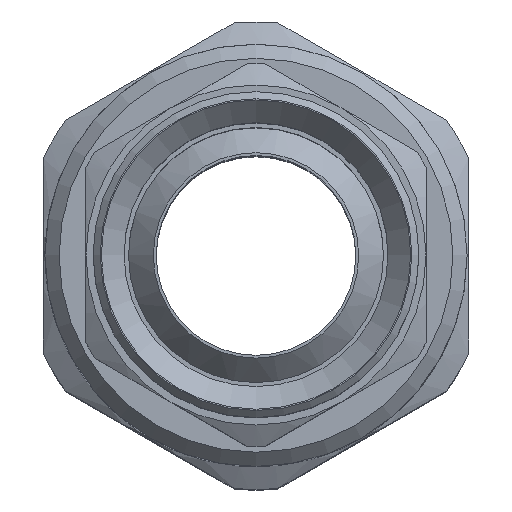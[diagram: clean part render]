
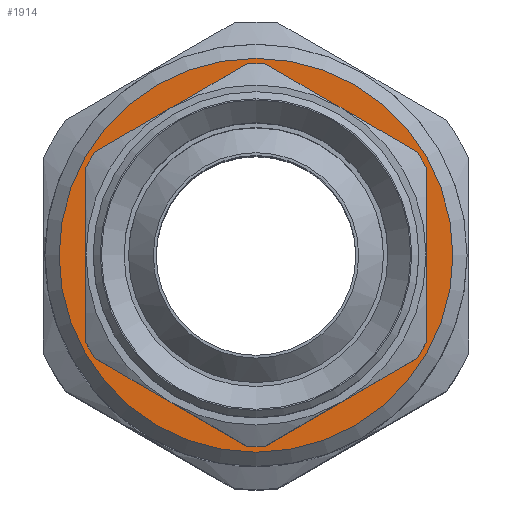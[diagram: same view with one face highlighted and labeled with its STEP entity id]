
A CAD part, top view. The second image highlights one B-rep face of the part: STEP entity #1914.
In plain terms, the highlighted planar face has unit normal (0, 0, 1).
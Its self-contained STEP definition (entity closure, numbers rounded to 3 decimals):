
#1863=CARTESIAN_POINT('',(13.9,0.,42.));
#1864=VERTEX_POINT('',#1863);
#1865=CARTESIAN_POINT('',(0.0,0.0,42.));
#1866=DIRECTION('',(0.0,0.0,-1.0));
#1867=DIRECTION('',(-1.0,0.0,0.0));
#1868=AXIS2_PLACEMENT_3D('',#1865,#1866,#1867);
#1869=CIRCLE('',#1868,13.9);
#1870=EDGE_CURVE('',#1864,#1864,#1869,.T.);
#1895=CARTESIAN_POINT('',(0.,0.,42.));
#1896=DIRECTION('',(0.0,0.0,1.0));
#1897=DIRECTION('',(1.0,0.0,0.0));
#1898=AXIS2_PLACEMENT_3D('',#1895,#1896,#1897);
#1899=PLANE('',#1898);
#1900=ORIENTED_EDGE('',*,*,#1870,.F.);
#1901=EDGE_LOOP('',(#1900));
#1902=FACE_OUTER_BOUND('',#1901,.T.);
#1903=CARTESIAN_POINT('',(11.5,0.,42.));
#1904=VERTEX_POINT('',#1903);
#1905=CARTESIAN_POINT('',(0.0,0.0,42.));
#1906=DIRECTION('',(0.0,0.0,-1.0));
#1907=DIRECTION('',(1.0,0.0,0.0));
#1908=AXIS2_PLACEMENT_3D('',#1905,#1906,#1907);
#1909=CIRCLE('',#1908,11.5);
#1910=EDGE_CURVE('',#1904,#1904,#1909,.T.);
#1911=ORIENTED_EDGE('',*,*,#1910,.T.);
#1912=EDGE_LOOP('',(#1911));
#1913=FACE_BOUND('',#1912,.T.);
#1914=ADVANCED_FACE('',(#1902,#1913),#1899,.T.);
